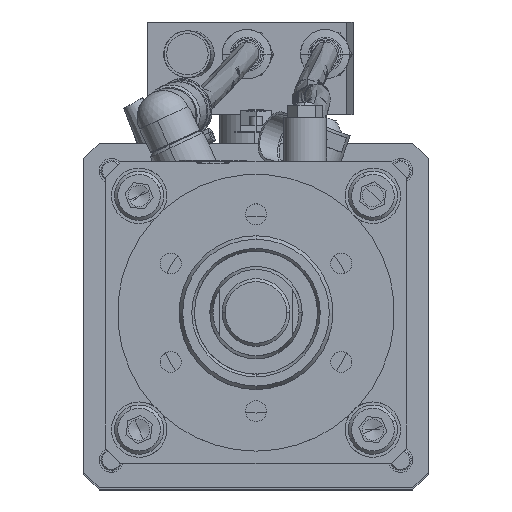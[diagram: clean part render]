
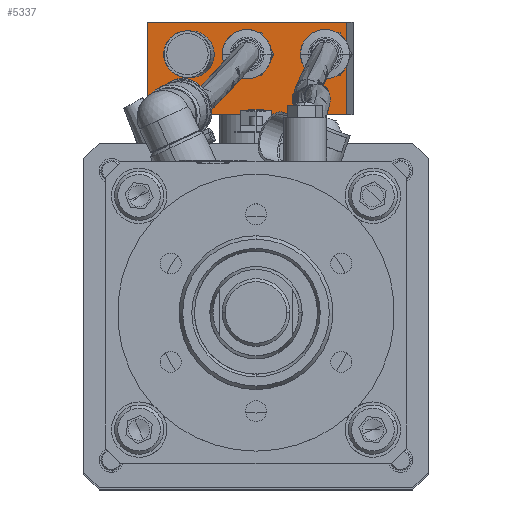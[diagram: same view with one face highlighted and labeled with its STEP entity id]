
A CAD part, top view. The second image highlights one B-rep face of the part: STEP entity #5337.
In plain terms, the highlighted planar face has unit normal (-0.046, 0, 0.999).
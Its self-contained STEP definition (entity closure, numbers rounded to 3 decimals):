
#79 = FACE_OUTER_BOUND ( 'NONE', #15478, .T. ) ;
#148 = VERTEX_POINT ( 'NONE', #12475 ) ;
#456 = VERTEX_POINT ( 'NONE', #3937 ) ;
#708 = ORIENTED_EDGE ( 'NONE', *, *, #12764, .T. ) ;
#1374 = CARTESIAN_POINT ( 'NONE',  ( -21.051, 79.5, -133.893 ) ) ;
#1581 = CIRCLE ( 'NONE', #9399, 6. ) ;
#1583 = EDGE_CURVE ( 'NONE', #10467, #6513, #3456, .T. ) ;
#1729 = AXIS2_PLACEMENT_3D ( 'NONE', #6386, #3933, #12091 ) ;
#1788 = CARTESIAN_POINT ( 'NONE',  ( 29.504, 66., -131.586 ) ) ;
#1929 = CARTESIAN_POINT ( 'NONE',  ( -35.429, 96., -134.549 ) ) ;
#2237 = EDGE_CURVE ( 'NONE', #2935, #11544, #3124, .T. ) ;
#2409 = VERTEX_POINT ( 'NONE', #1929 ) ;
#2662 = DIRECTION ( 'NONE',  ( -0.046, 0., 0.999 ) ) ;
#2696 = CIRCLE ( 'NONE', #12829, 5. ) ;
#2935 = VERTEX_POINT ( 'NONE', #10958 ) ;
#3025 = CARTESIAN_POINT ( 'NONE',  ( 18.408, 85.5, -132.093 ) ) ;
#3124 = CIRCLE ( 'NONE', #9507, 6. ) ;
#3160 = DIRECTION ( 'NONE',  ( 0., 1., 0. ) ) ;
#3305 = CIRCLE ( 'NONE', #16929, 5. ) ;
#3456 = CIRCLE ( 'NONE', #15330, 5. ) ;
#3758 = EDGE_CURVE ( 'NONE', #2409, #148, #8009, .T. ) ;
#3933 = DIRECTION ( 'NONE',  ( -0.046, 0., 0.999 ) ) ;
#3937 = CARTESIAN_POINT ( 'NONE',  ( 29.504, 66., -131.586 ) ) ;
#3983 = EDGE_LOOP ( 'NONE', ( #9793, #16587 ) ) ;
#3992 = FACE_BOUND ( 'NONE', #7846, .T. ) ;
#4029 = DIRECTION ( 'NONE',  ( -0.999, 0., -0.046 ) ) ;
#4212 = ORIENTED_EDGE ( 'NONE', *, *, #9024, .T. ) ;
#4350 = EDGE_LOOP ( 'NONE', ( #15058, #8519 ) ) ;
#4359 = ORIENTED_EDGE ( 'NONE', *, *, #6959, .F. ) ;
#4528 = LINE ( 'NONE', #1788, #13776 ) ;
#4781 = CARTESIAN_POINT ( 'NONE',  ( 29.504, 96., -131.586 ) ) ;
#5337 = ADVANCED_FACE ( 'NONE', ( #10877, #3992, #79, #15238 ), #9524, .T. ) ;
#5715 = LINE ( 'NONE', #15396, #9989 ) ;
#6386 = CARTESIAN_POINT ( 'NONE',  ( 23.403, 85.5, -131.865 ) ) ;
#6513 = VERTEX_POINT ( 'NONE', #12675 ) ;
#6630 = ORIENTED_EDGE ( 'NONE', *, *, #1583, .F. ) ;
#6959 = EDGE_CURVE ( 'NONE', #6513, #10467, #3305, .T. ) ;
#7035 = VECTOR ( 'NONE', #13534, 1000. ) ;
#7111 = DIRECTION ( 'NONE',  ( -0.046, 0., 0.999 ) ) ;
#7128 = CARTESIAN_POINT ( 'NONE',  ( 29.504, 96., -131.586 ) ) ;
#7416 = DIRECTION ( 'NONE',  ( -0.999, 0., -0.046 ) ) ;
#7846 = EDGE_LOOP ( 'NONE', ( #4359, #6630 ) ) ;
#8009 = LINE ( 'NONE', #17713, #7035 ) ;
#8059 = CARTESIAN_POINT ( 'NONE',  ( 2.924, 85.5, -132.799 ) ) ;
#8478 = VERTEX_POINT ( 'NONE', #3025 ) ;
#8519 = ORIENTED_EDGE ( 'NONE', *, *, #2237, .F. ) ;
#8613 = DIRECTION ( 'NONE',  ( -0.046, 0., 0.999 ) ) ;
#8673 = LINE ( 'NONE', #4781, #12726 ) ;
#8677 = CIRCLE ( 'NONE', #1729, 5. ) ;
#9024 = EDGE_CURVE ( 'NONE', #148, #456, #5715, .T. ) ;
#9399 = AXIS2_PLACEMENT_3D ( 'NONE', #13098, #11742, #17016 ) ;
#9507 = AXIS2_PLACEMENT_3D ( 'NONE', #9831, #2662, #12546 ) ;
#9524 = PLANE ( 'NONE',  #16574 ) ;
#9744 = CARTESIAN_POINT ( 'NONE',  ( 28.397, 85.5, -131.637 ) ) ;
#9754 = DIRECTION ( 'NONE',  ( -0.999, 0., -0.046 ) ) ;
#9793 = ORIENTED_EDGE ( 'NONE', *, *, #14415, .F. ) ;
#9831 = CARTESIAN_POINT ( 'NONE',  ( -21.051, 85.5, -133.893 ) ) ;
#9989 = VECTOR ( 'NONE', #16774, 1000. ) ;
#10467 = VERTEX_POINT ( 'NONE', #8059 ) ;
#10877 = FACE_BOUND ( 'NONE', #3983, .T. ) ;
#10958 = CARTESIAN_POINT ( 'NONE',  ( -21.051, 91.5, -133.893 ) ) ;
#11053 = DIRECTION ( 'NONE',  ( -0.046, 0., 0.999 ) ) ;
#11544 = VERTEX_POINT ( 'NONE', #1374 ) ;
#11742 = DIRECTION ( 'NONE',  ( -0.046, 0., 0.999 ) ) ;
#12091 = DIRECTION ( 'NONE',  ( -0.999, 0., -0.046 ) ) ;
#12335 = DIRECTION ( 'NONE',  ( -0.999, 0., -0.046 ) ) ;
#12475 = CARTESIAN_POINT ( 'NONE',  ( -35.429, 66., -134.549 ) ) ;
#12546 = DIRECTION ( 'NONE',  ( 0., 1., 0. ) ) ;
#12675 = CARTESIAN_POINT ( 'NONE',  ( -7.066, 85.5, -133.255 ) ) ;
#12726 = VECTOR ( 'NONE', #7416, 1000. ) ;
#12764 = EDGE_CURVE ( 'NONE', #14144, #2409, #8673, .T. ) ;
#12779 = DIRECTION ( 'NONE',  ( -0.999, 0., -0.046 ) ) ;
#12829 = AXIS2_PLACEMENT_3D ( 'NONE', #15506, #8613, #12779 ) ;
#13098 = CARTESIAN_POINT ( 'NONE',  ( -21.051, 85.5, -133.893 ) ) ;
#13534 = DIRECTION ( 'NONE',  ( 0., -1., 0. ) ) ;
#13776 = VECTOR ( 'NONE', #3160, 1000. ) ;
#13838 = DIRECTION ( 'NONE',  ( -0.046, 0., 0.999 ) ) ;
#14144 = VERTEX_POINT ( 'NONE', #7128 ) ;
#14415 = EDGE_CURVE ( 'NONE', #17894, #8478, #8677, .T. ) ;
#15025 = EDGE_CURVE ( 'NONE', #8478, #17894, #2696, .T. ) ;
#15057 = CARTESIAN_POINT ( 'NONE',  ( -16.888, 62.876, -133.703 ) ) ;
#15058 = ORIENTED_EDGE ( 'NONE', *, *, #16452, .F. ) ;
#15082 = CARTESIAN_POINT ( 'NONE',  ( -2.071, 85.5, -133.027 ) ) ;
#15238 = FACE_BOUND ( 'NONE', #4350, .T. ) ;
#15330 = AXIS2_PLACEMENT_3D ( 'NONE', #15082, #7111, #4029 ) ;
#15396 = CARTESIAN_POINT ( 'NONE',  ( 29.504, 66., -131.586 ) ) ;
#15478 = EDGE_LOOP ( 'NONE', ( #16147, #708, #16420, #4212 ) ) ;
#15506 = CARTESIAN_POINT ( 'NONE',  ( 23.403, 85.5, -131.865 ) ) ;
#16147 = ORIENTED_EDGE ( 'NONE', *, *, #17121, .T. ) ;
#16420 = ORIENTED_EDGE ( 'NONE', *, *, #3758, .T. ) ;
#16452 = EDGE_CURVE ( 'NONE', #11544, #2935, #1581, .T. ) ;
#16574 = AXIS2_PLACEMENT_3D ( 'NONE', #15057, #11053, #12335 ) ;
#16587 = ORIENTED_EDGE ( 'NONE', *, *, #15025, .F. ) ;
#16653 = CARTESIAN_POINT ( 'NONE',  ( -2.071, 85.5, -133.027 ) ) ;
#16774 = DIRECTION ( 'NONE',  ( 0.999, 0., 0.046 ) ) ;
#16929 = AXIS2_PLACEMENT_3D ( 'NONE', #16653, #13838, #9754 ) ;
#17016 = DIRECTION ( 'NONE',  ( 0., 1., 0. ) ) ;
#17121 = EDGE_CURVE ( 'NONE', #456, #14144, #4528, .T. ) ;
#17713 = CARTESIAN_POINT ( 'NONE',  ( -35.429, 66., -134.549 ) ) ;
#17894 = VERTEX_POINT ( 'NONE', #9744 ) ;
